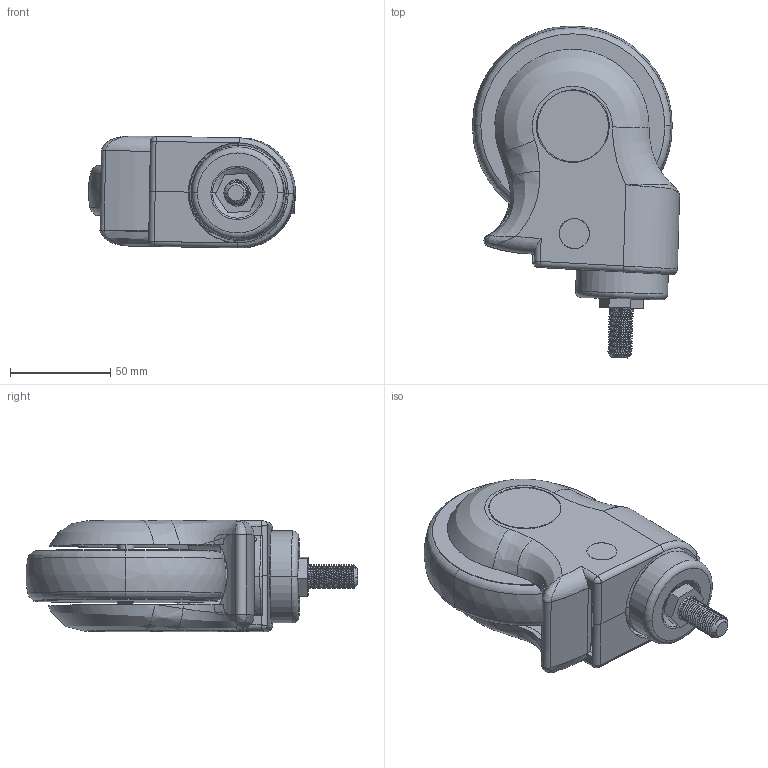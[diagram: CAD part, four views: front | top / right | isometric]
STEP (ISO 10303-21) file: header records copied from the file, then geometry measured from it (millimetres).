
FILE_DESCRIPTION((''),'2;1');
FILE_NAME('E3734-77_ASM_ASM','2022-09-12T',('lenovo'),(''),'PRO/ENGINEER BY PARAMETRIC TECHNOLOGY CORPORATION, 2010280','PRO/ENGINEER BY PARAMETRIC TECHNOLOGY CORPORATION, 2010280','');
FILE_SCHEMA(('CONFIG_CONTROL_DESIGN'));
Length unit declared in the file: millimetre
Products named in the file (16): E374C11_2; 364-977WAIBAO_1; 364-77_ASM_2_ASM; 350-33A_1; 300-34_1; E374-631_1; E374-632_1; E374-63_ASM_1_ASM; E370-60_1; E370-23M12X25_1; SB36_1; SB15_2; SB6_2; E370-612_1; E3744-77_ASM_1_ASM; E3734-77_ASM_ASM
Assembly tree (17 placements, depth 4):
  E3734-77_ASM_ASM
    E3744-77_ASM_1_ASM
      E374C11_2
      364-77_ASM_2_ASM
        364-977WAIBAO_1
      350-33A_1
      300-34_1
      E374-63_ASM_1_ASM
        E374-631_1
        E374-632_1
      E370-60_1
      E370-23M12X25_1
      SB36_1  x2
      SB15_2  x2
      SB6_2
      E370-612_1
Bounding box: 103.51 x 165.88 x 55.94 mm (x, y, z)
Volume: 278411.7 mm3; surface area: 109018.8 mm2
Topology: 14 solids, 14 shells, 621 faces, 1671 edges, 1102 vertices
Faces by surface type: cylinder 270, plane 181, bspline 75, cone 46, torus 44, sphere 5
Entity records: 35640 total; most frequent: CARTESIAN_POINT 20319, ORIENTED_EDGE 3308, DIRECTION 2968, EDGE_CURVE 1654, AXIS2_PLACEMENT_3D 1184, VERTEX_POINT 1094, EDGE_LOOP 680, FACE_OUTER_BOUND 613
